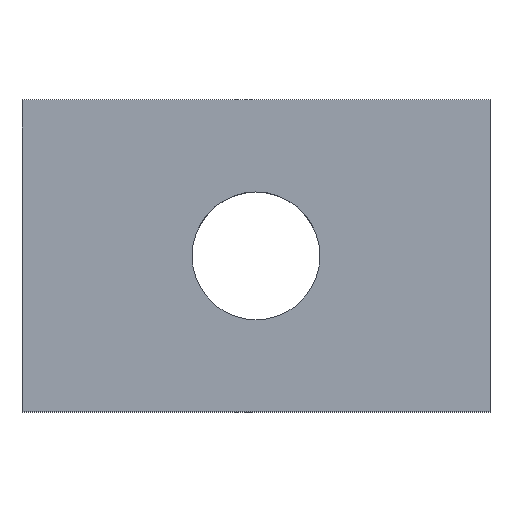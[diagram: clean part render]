
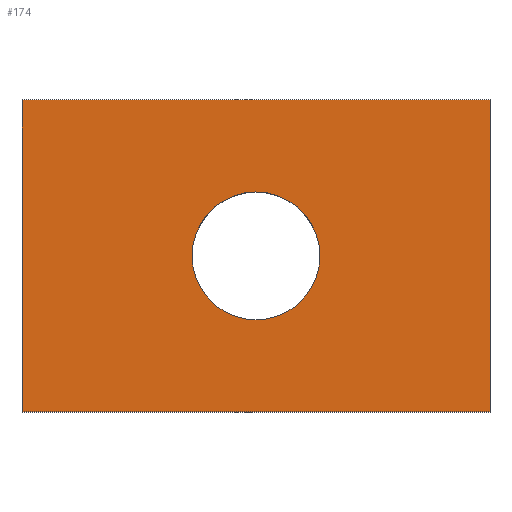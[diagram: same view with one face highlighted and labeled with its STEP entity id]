
A CAD part, top view. The second image highlights one B-rep face of the part: STEP entity #174.
In plain terms, the highlighted planar face has unit normal (0, 0, 1).
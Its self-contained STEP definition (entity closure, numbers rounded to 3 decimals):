
#15=CIRCLE('',#187,2.459);
#33=ORIENTED_EDGE('',*,*,#57,.T.);
#34=ORIENTED_EDGE('',*,*,#47,.T.);
#35=ORIENTED_EDGE('',*,*,#51,.T.);
#36=ORIENTED_EDGE('',*,*,#54,.T.);
#37=ORIENTED_EDGE('',*,*,#56,.T.);
#47=EDGE_CURVE('',#62,#61,#71,.T.);
#51=EDGE_CURVE('',#61,#64,#75,.T.);
#54=EDGE_CURVE('',#64,#66,#78,.T.);
#56=EDGE_CURVE('',#66,#62,#80,.T.);
#57=EDGE_CURVE('',#67,#67,#15,.T.);
#61=VERTEX_POINT('',#232);
#62=VERTEX_POINT('',#234);
#64=VERTEX_POINT('',#240);
#66=VERTEX_POINT('',#246);
#67=VERTEX_POINT('',#253);
#71=LINE('',#233,#83);
#75=LINE('',#241,#87);
#78=LINE('',#247,#90);
#80=LINE('',#250,#92);
#83=VECTOR('',#198,1000.);
#87=VECTOR('',#204,1000.);
#90=VECTOR('',#209,1000.);
#92=VECTOR('',#213,1000.);
#97=EDGE_LOOP('',(#33));
#98=EDGE_LOOP('',(#34,#35,#36,#37));
#107=FACE_BOUND('',#97,.T.);
#108=FACE_BOUND('',#98,.T.);
#117=PLANE('',#186);
#174=ADVANCED_FACE('',(#107,#108),#117,.T.);
#186=AXIS2_PLACEMENT_3D('',#251,#214,#215);
#187=AXIS2_PLACEMENT_3D('',#252,#216,#217);
#198=DIRECTION('',(0.,-1.,0.));
#204=DIRECTION('',(1.,0.,0.));
#209=DIRECTION('',(0.,1.,0.));
#213=DIRECTION('',(-1.,0.,0.));
#214=DIRECTION('',(0.,0.,1.));
#215=DIRECTION('',(1.,0.,0.));
#216=DIRECTION('',(0.,0.,-1.));
#217=DIRECTION('',(0.,-1.,0.));
#232=CARTESIAN_POINT('',(-9.,-6.,3.9));
#233=CARTESIAN_POINT('',(-9.,6.,3.9));
#234=CARTESIAN_POINT('',(-9.,6.,3.9));
#240=CARTESIAN_POINT('',(9.,-6.,3.9));
#241=CARTESIAN_POINT('',(-9.,-6.,3.9));
#246=CARTESIAN_POINT('',(9.,6.,3.9));
#247=CARTESIAN_POINT('',(9.,-6.,3.9));
#250=CARTESIAN_POINT('',(9.,6.,3.9));
#251=CARTESIAN_POINT('',(0.,0.,3.9));
#252=CARTESIAN_POINT('',(0.,0.,3.9));
#253=CARTESIAN_POINT('',(0.,-2.459,3.9));
